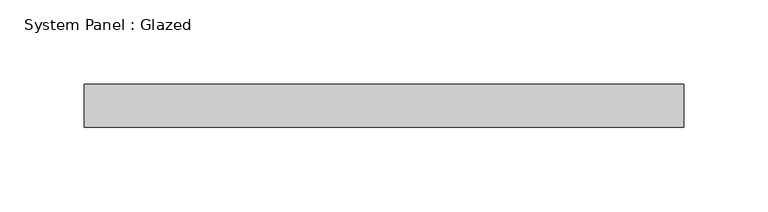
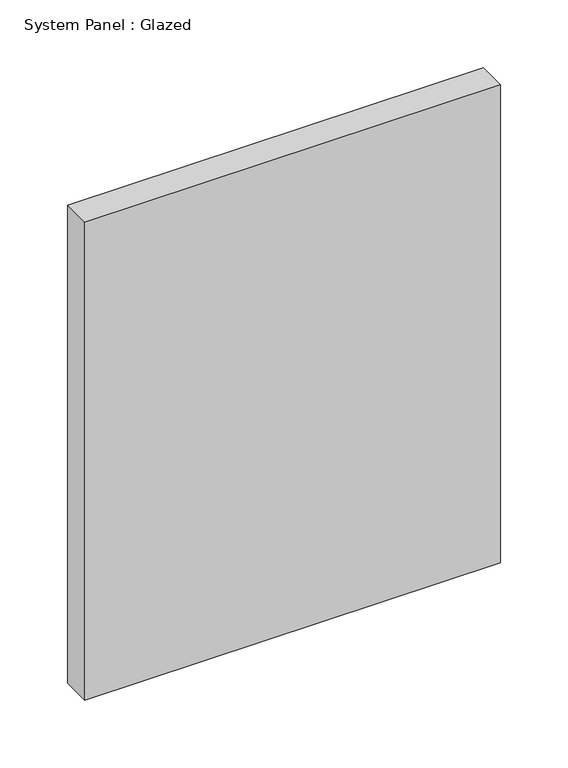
"""IFC4 building model written with IfcOpenShell, lengths in millimetres: plate geometry, System Panel : Glazed."""

from ifc_helpers import new_model, si_unit, origin, origin_with_axes, place, context, project, spatial, polyline, outline, extrude, source, transform, mapped, element, save


def system_panel_glazed_418eb6cd(model_context):
    return source(origin(), model_context, "Body", "SweptSolid", [
        extrude(outline(polyline([(177.8000002, -44.45), (-177.8000002, -44.45), (-177.8000002, -19.05), (177.8000002, -19.05), (177.8000002, -44.45)])), origin_with_axes(), (0.0, 0.0, 1.0), 431.8),
    ])


if __name__ == "__main__":
    model = new_model("IFC4")
    model_context = context("Model", 3, world=origin())
    ifc_project = project(units=[si_unit("LENGTHUNIT", "METRE", prefix="MILLI")], contexts=[model_context])
    site = spatial("IfcSite", under=ifc_project)
    building = spatial("IfcBuilding", under=site)
    placement = place(None, origin())
    system_panel_glazed_shape = system_panel_glazed_418eb6cd(model_context)
    element("IfcPlate", 1, ObjectType="System Panel : Glazed", at=placement, inside=building, context=model_context, shape_type="MappedRepresentation", body=[
        mapped(system_panel_glazed_shape, transform((0.0, 0.0, 0.0), x_axis=(1.0, 0.0, 0.0), y_axis=(0.0, 1.0, 0.0), z_axis=(0.0, 0.0, 1.0))),
    ])
    save(model, "model.ifc")
